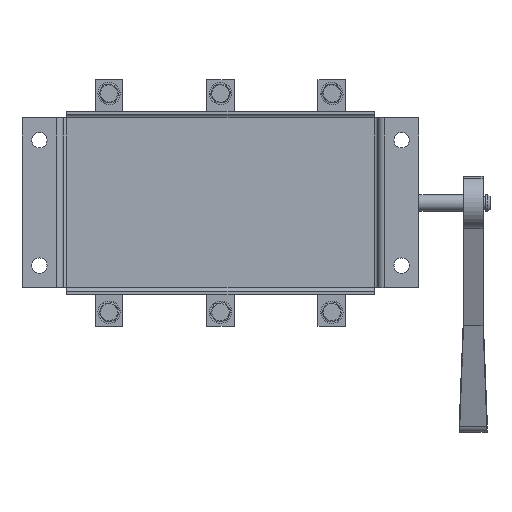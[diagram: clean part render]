
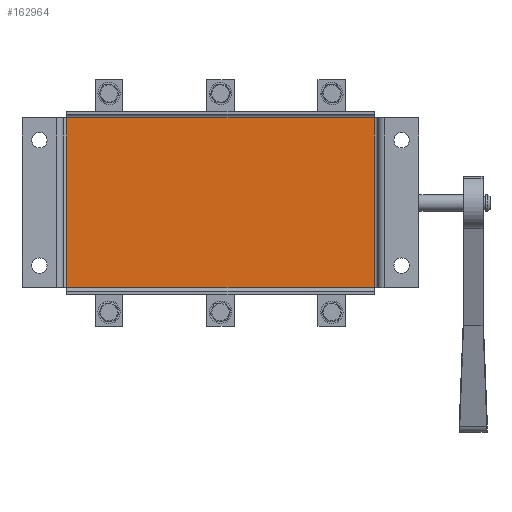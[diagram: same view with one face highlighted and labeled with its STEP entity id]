
A CAD part, front view. The second image highlights one B-rep face of the part: STEP entity #162964.
In plain terms, the highlighted planar face has unit normal (0, -1, 0).
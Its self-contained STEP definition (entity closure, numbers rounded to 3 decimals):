
#771 = CARTESIAN_POINT ( 'NONE',  ( -115., -2., 61. ) ) ;
#3924 = EDGE_CURVE ( 'NONE', #94903, #130270, #30032, .T. ) ;
#5141 = VECTOR ( 'NONE', #45889, 1000. ) ;
#11435 = CARTESIAN_POINT ( 'NONE',  ( -115., -2., -61. ) ) ;
#12970 = EDGE_CURVE ( 'NONE', #145199, #94903, #128883, .T. ) ;
#15857 = DIRECTION ( 'NONE',  ( 0., 1., 0. ) ) ;
#18308 = AXIS2_PLACEMENT_3D ( 'NONE', #32685, #15857, #49649 ) ;
#23606 = EDGE_LOOP ( 'NONE', ( #79285, #70740, #78602, #157568 ) ) ;
#25918 = EDGE_CURVE ( 'NONE', #205146, #130270, #119803, .T. ) ;
#30032 = LINE ( 'NONE', #11435, #88060 ) ;
#30053 = DIRECTION ( 'NONE',  ( 0., 0., -1. ) ) ;
#32685 = CARTESIAN_POINT ( 'NONE',  ( -115., -2., 61. ) ) ;
#45578 = CARTESIAN_POINT ( 'NONE',  ( 110.5, -2., -61. ) ) ;
#45889 = DIRECTION ( 'NONE',  ( 1., 0., 0. ) ) ;
#47047 = CARTESIAN_POINT ( 'NONE',  ( -110.5, -2., 61. ) ) ;
#49649 = DIRECTION ( 'NONE',  ( -1., 0., 0. ) ) ;
#70740 = ORIENTED_EDGE ( 'NONE', *, *, #25918, .F. ) ;
#78602 = ORIENTED_EDGE ( 'NONE', *, *, #145401, .F. ) ;
#79028 = DIRECTION ( 'NONE',  ( 1., 0., 0. ) ) ;
#79285 = ORIENTED_EDGE ( 'NONE', *, *, #3924, .T. ) ;
#88060 = VECTOR ( 'NONE', #79028, 1000. ) ;
#94903 = VERTEX_POINT ( 'NONE', #119641 ) ;
#113034 = PLANE ( 'NONE',  #18308 ) ;
#119641 = CARTESIAN_POINT ( 'NONE',  ( -110.5, -2., -61. ) ) ;
#119803 = LINE ( 'NONE', #171923, #200737 ) ;
#128883 = LINE ( 'NONE', #47047, #161763 ) ;
#130270 = VERTEX_POINT ( 'NONE', #45578 ) ;
#134286 = CARTESIAN_POINT ( 'NONE',  ( 110.5, -2., 61. ) ) ;
#145199 = VERTEX_POINT ( 'NONE', #158005 ) ;
#145401 = EDGE_CURVE ( 'NONE', #145199, #205146, #146301, .T. ) ;
#146301 = LINE ( 'NONE', #771, #5141 ) ;
#157568 = ORIENTED_EDGE ( 'NONE', *, *, #12970, .T. ) ;
#158005 = CARTESIAN_POINT ( 'NONE',  ( -110.5, -2., 61. ) ) ;
#161763 = VECTOR ( 'NONE', #30053, 1000. ) ;
#162964 = ADVANCED_FACE ( 'NONE', ( #178367 ), #113034, .F. ) ;
#171923 = CARTESIAN_POINT ( 'NONE',  ( 110.5, -2., 61. ) ) ;
#178367 = FACE_OUTER_BOUND ( 'NONE', #23606, .T. ) ;
#200737 = VECTOR ( 'NONE', #206450, 1000. ) ;
#205146 = VERTEX_POINT ( 'NONE', #134286 ) ;
#206450 = DIRECTION ( 'NONE',  ( 0., 0., -1. ) ) ;
